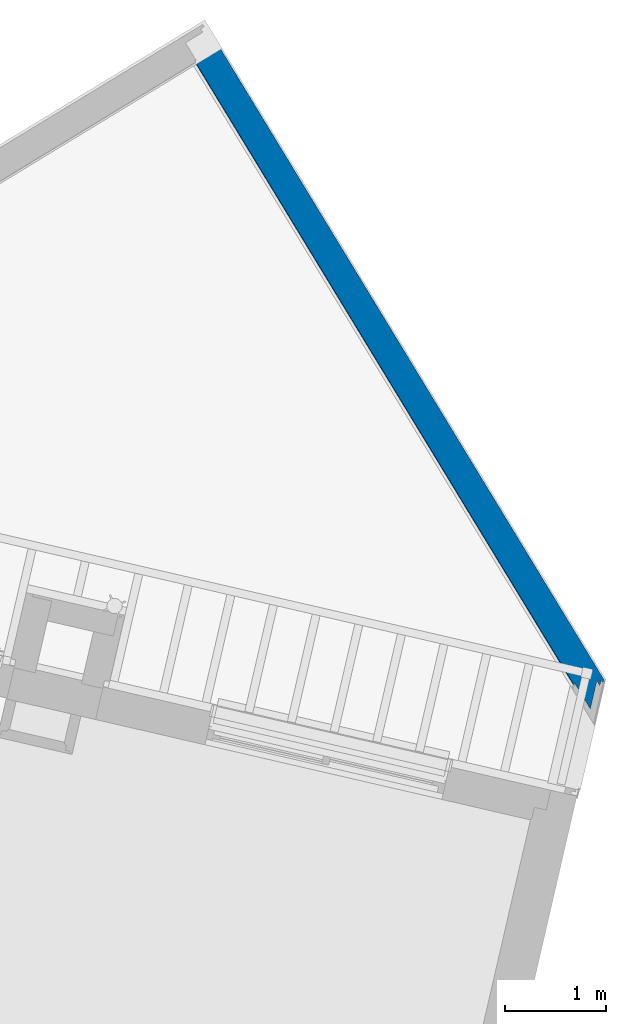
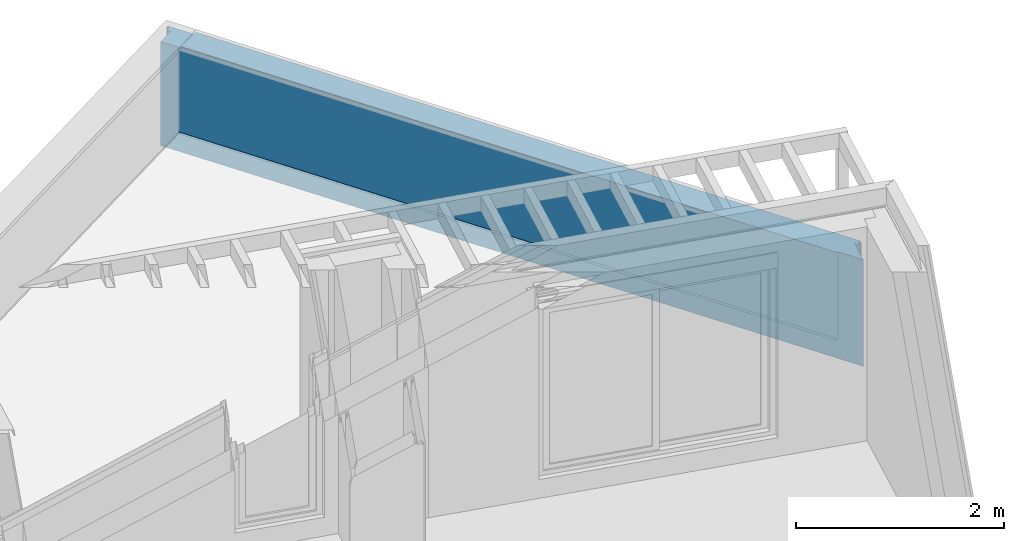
# One storey, part 37 of 62: 1 wall.
"""IFC2X3 building model written with IfcOpenShell, lengths in metres."""

from ifc_helpers import new_model, entity, si_unit, converted_unit, derived_unit, money_unit, direction, frame, origin_with_axes, place, context, subcontext, project, spatial, faceted_brep, material, material_list, type_object, element, save


model = new_model("IFC2X3")

# Units and contexts
model_context = context("Model", 3, precision=1e-05, world=origin_with_axes(), true_north=direction((0.0, 1.0)))
body_context = subcontext(model_context, "Body", "Model", "MODEL_VIEW")
ifc_project = project(units=[si_unit("LENGTHUNIT", "METRE"), si_unit("AREAUNIT", "SQUARE_METRE"), si_unit("VOLUMEUNIT", "CUBIC_METRE"), converted_unit("PLANEANGLEUNIT", "DEGREE", entity("IfcPlaneAngleMeasure", 0.0174532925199), si_unit("PLANEANGLEUNIT", "RADIAN"), dimensions=[0, 0, 0, 0, 0, 0, 0]), si_unit("SOLIDANGLEUNIT", "STERADIAN"), money_unit("EUR"), converted_unit("TIMEUNIT", "Year", entity("IfcTimeMeasure", 31556926.0), si_unit("TIMEUNIT", "SECOND"), dimensions=[0, 0, 1, 0, 0, 0, 0]), si_unit("MASSUNIT", "GRAM", prefix="KILO"), si_unit("THERMODYNAMICTEMPERATUREUNIT", "DEGREE_CELSIUS"), si_unit("LUMINOUSINTENSITYUNIT", "LUMEN"), si_unit("ENERGYUNIT", "JOULE", prefix="MEGA"), derived_unit("THERMALCONDUCTANCEUNIT", [(si_unit("POWERUNIT", "WATT"), 1), (si_unit("LENGTHUNIT", "METRE"), -1), (si_unit("THERMODYNAMICTEMPERATUREUNIT", "KELVIN"), -1)]), derived_unit("SPECIFICHEATCAPACITYUNIT", [(si_unit("ENERGYUNIT", "JOULE"), 1), (si_unit("MASSUNIT", "GRAM", prefix="KILO"), -1), (si_unit("THERMODYNAMICTEMPERATUREUNIT", "KELVIN"), -1)]), derived_unit("MASSDENSITYUNIT", [(si_unit("MASSUNIT", "GRAM", prefix="KILO"), 1), (si_unit("VOLUMEUNIT", "CUBIC_METRE"), -1)])], contexts=[model_context])

# Site, building, storey
site_placement = place(None, origin_with_axes())
site = spatial("IfcSite", under=ifc_project, at=site_placement, Name="Site", CompositionType="ELEMENT")
building_placement = place(site_placement, origin_with_axes())
building = spatial("IfcBuilding", under=site, at=building_placement, Name="Bâtiment", CompositionType="ELEMENT")
storey_placement = place(building_placement, frame((0.0, 0.0, 8.16), z_axis=(0.0, 0.0, 1.0), x_axis=(1.0, 0.0, 0.0)))
storey = spatial("IfcBuildingStorey", under=building, at=storey_placement, Name="R+3", CompositionType="ELEMENT", Elevation=8.16)

# Wall
ifc_material_1 = material(Name="Finition ext - Bardage bois")
ifc_material_2 = material(Name="Bois - Lattage")
ifc_material_3 = material(Name="Béton")
ifc_material_4 = material(Name="Etanchéité - Bitume")
ifc_material_5 = material(Name="Finition ext - Crépis")
ifc_material_6 = material(Name="Métal - Aluminium")
ifc_material_list = material_list([ifc_material_1, ifc_material_2, ifc_material_3, ifc_material_4, ifc_material_5, ifc_material_6])
wall_type = type_object("IfcWallType", Name="Acrotère plancher 21 isolée TERR ACCE BARDAGE BOIS 285 x 1250", PredefinedType="USERDEFINED")
wall_placement = place(storey_placement, frame((-2.42846946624, 20.387986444, 0.0), z_axis=(0.0, 0.0, 1.0), x_axis=(0.519386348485, -0.854539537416, 0.0)))
element("IfcWall", 1, at=wall_placement, inside=storey, type_object=wall_type, material=ifc_material_list, Name="Muret béton 20cm", ObjectType="PARAPET", context=body_context, shape_type="Brep", body=[
    faceted_brep([(0.302307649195, 0.0, 1.22374689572), (0.302307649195, 0.0, 1.22802453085), (0.302307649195, -6.48961773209e-09, 1.249897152), (7.58217662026, -3.32137872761e-10, 1.24989715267), (7.58217661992, 0.0, 0.0), (8.28520896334e-09, 0.0, 0.0), (8.28520896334e-09, -6.6365224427e-09, 1.22), (0.302307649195, 0.0, 1.22), (0.3023076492, -0.025, 1.22374689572), (0.3023076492, -0.025, 1.22802453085), (0.3023076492, -0.025, 1.249897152), (7.60780697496, -0.025, 1.24989715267), (7.60780697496, -0.025, 0.0), (8.29101409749e-09, -0.025, 0.0), (8.29101409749e-09, -0.025, 1.22), (0.3023076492, -0.025, 1.22)], [[[0, 1, 2, 3, 4, 5, 6, 7]], [[8, 9, 1, 0]], [[9, 10, 2, 1]], [[3, 2, 10, 11]], [[11, 12, 4, 3]], [[4, 12, 13, 5]], [[13, 14, 6, 5]], [[14, 15, 7, 6]], [[15, 8, 0, 7]], [[11, 10, 9, 8, 15, 14, 13, 12]]]),
    faceted_brep([(0.0250000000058, -0.0249999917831, 0.228976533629), (0.0250000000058, -0.0249999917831, 0.267041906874), (0.0250000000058, -0.0249999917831, 1.22), (0.3023076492, -0.0249999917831, 1.22), (0.3023076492, -0.0249999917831, 1.22374689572), (0.3023076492, -0.0249999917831, 1.22802453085), (0.3023076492, -0.0249999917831, 1.249897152), (7.57200313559, -0.0249999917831, 1.24989715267), (7.57200313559, -0.0249999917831, 0.267041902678), (7.57200313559, -0.0249999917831, 0.228976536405), (7.57200313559, -0.0249999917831, 0.220000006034), (7.57200313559, -0.0249999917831, 0.192882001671), (7.57200313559, -0.0249999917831, 0.100000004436), (7.57200313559, -0.0249999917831, 0.0), (0.0250000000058, -0.0249999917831, 0.0), (0.0250000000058, -0.0249999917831, 0.1), (0.0250000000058, -0.0249999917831, 0.192882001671), (0.0250000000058, -0.0249999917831, 0.22), (0.0250000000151, -0.0649999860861, 0.228976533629), (0.0250000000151, -0.0649999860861, 0.267041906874), (0.0250000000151, -0.0649999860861, 1.22), (0.302307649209, -0.0649999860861, 1.22), (0.302307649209, -0.0649999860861, 1.22374689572), (0.302307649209, -0.0649999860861, 1.22802453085), (0.302307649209, -0.0649999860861, 1.249897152), (7.61301169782, -0.0649999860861, 1.24989715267), (7.61301169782, -0.0649999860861, 0.267041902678), (7.61301169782, -0.0649999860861, 0.228976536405), (7.61301169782, -0.0649999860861, 0.220000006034), (7.61301169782, -0.0649999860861, 0.192882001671), (7.61301169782, -0.0649999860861, 0.100000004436), (7.61301169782, -0.0649999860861, 0.0), (0.0250000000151, -0.0649999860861, 0.0), (0.0250000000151, -0.0649999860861, 0.1), (0.0250000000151, -0.0649999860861, 0.192882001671), (0.0250000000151, -0.0649999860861, 0.22)], [[[0, 1, 2, 3, 4, 5, 6, 7, 8, 9, 10, 11, 12, 13, 14, 15, 16, 17]], [[18, 19, 1, 0]], [[19, 20, 2, 1]], [[3, 2, 20, 21]], [[21, 22, 4, 3]], [[22, 23, 5, 4]], [[23, 24, 6, 5]], [[7, 6, 24, 25]], [[26, 8, 7, 25]], [[9, 8, 26, 27]], [[10, 9, 27, 28]], [[11, 10, 28, 29]], [[12, 11, 29, 30]], [[13, 12, 30, 31]], [[31, 32, 14, 13]], [[32, 33, 15, 14]], [[33, 34, 16, 15]], [[34, 35, 17, 16]], [[35, 18, 0, 17]], [[21, 20, 19, 18, 35, 34, 33, 32, 31, 30, 29, 28, 27, 26, 25, 24, 23, 22]]]),
    faceted_brep([(0.0650000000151, -0.065, 0.228976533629), (0.0650000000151, -0.065, 0.267041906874), (0.0650000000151, -0.065, 1.22), (0.302307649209, -0.065, 1.22), (0.302307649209, -0.065, 1.22374689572), (0.302307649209, -0.065, 1.22802453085), (0.302307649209, -0.065, 1.249897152), (7.55572558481, -0.065, 1.24989715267), (7.55572558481, -0.065, 0.267041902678), (7.55572558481, -0.065, 0.228976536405), (7.55572558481, -0.065, 0.220000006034), (7.55572558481, -0.065, 0.192882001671), (7.55572558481, -0.065, 0.100000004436), (7.55572558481, -0.065, 0.0), (0.0650000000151, -0.065, 0.0), (0.0650000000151, -0.065, 0.1), (0.0650000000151, -0.065, 0.192882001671), (0.0650000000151, -0.065, 0.22), (0.0650000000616, -0.265000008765, 0.228976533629), (0.0650000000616, -0.265000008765, 0.267041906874), (0.0650000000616, -0.265000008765, 1.22), (0.302307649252, -0.265000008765, 1.22), (0.302307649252, -0.265000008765, 1.22374689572), (0.302307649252, -0.265000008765, 1.22802453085), (0.302307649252, -0.265000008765, 1.249897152), (7.76076843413, -0.265000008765, 1.24989715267), (7.76076843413, -0.265000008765, 0.267041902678), (7.76076843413, -0.265000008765, 0.228976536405), (7.76076843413, -0.265000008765, 0.220000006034), (7.76076843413, -0.265000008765, 0.192882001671), (7.76076843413, -0.265000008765, 0.100000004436), (7.76076843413, -0.265000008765, 0.0), (0.0650000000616, -0.265000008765, 0.0), (0.0650000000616, -0.265000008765, 0.1), (0.0650000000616, -0.265000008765, 0.192882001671), (0.0650000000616, -0.265000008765, 0.22)], [[[0, 1, 2, 3, 4, 5, 6, 7, 8, 9, 10, 11, 12, 13, 14, 15, 16, 17]], [[18, 19, 1, 0]], [[19, 20, 2, 1]], [[3, 2, 20, 21]], [[21, 22, 4, 3]], [[22, 23, 5, 4]], [[23, 24, 6, 5]], [[7, 6, 24, 25]], [[26, 8, 7, 25]], [[9, 8, 26, 27]], [[10, 9, 27, 28]], [[11, 10, 28, 29]], [[12, 11, 29, 30]], [[13, 12, 30, 31]], [[31, 32, 14, 13]], [[32, 33, 15, 14]], [[33, 34, 16, 15]], [[34, 35, 17, 16]], [[35, 18, 0, 17]], [[21, 20, 19, 18, 27, 26, 25, 24, 23, 22]], [[27, 18, 35, 28]], [[28, 35, 34, 33, 30, 29]], [[30, 33, 32, 31]]]),
    faceted_brep([(7.48458979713, -0.274999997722, 0.11), (7.4743376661, -0.265000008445, 0.11), (7.47433766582, -0.265000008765, 0.220000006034), (7.48458979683, -0.274999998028, 0.220000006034), (0.265000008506, -0.265000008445, 0.11), (0.265000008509, -0.274999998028, 0.11), (0.265000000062, -0.265000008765, 0.22), (0.265000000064, -0.274999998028, 0.22)], [[[0, 1, 2, 3]], [[4, 1, 0, 5]], [[1, 4, 6, 2]], [[2, 6, 7, 3]], [[5, 0, 3, 7]], [[4, 5, 7, 6]]]),
    faceted_brep([(0.265000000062, -0.265000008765, 0.267041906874), (0.265000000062, -0.265000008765, 1.22), (0.302307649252, -0.265000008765, 1.22), (0.302307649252, -0.265000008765, 1.22374689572), (0.302307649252, -0.265000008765, 1.22802453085), (0.302307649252, -0.265000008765, 1.249897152), (7.47433766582, -0.265000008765, 1.24989715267), (7.47433766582, -0.265000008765, 0.267041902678), (0.265000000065, -0.280000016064, 1.22), (0.265000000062, -0.266045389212, 0.267041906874), (0.265000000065, -0.280000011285, 0.267041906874), (0.302307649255, -0.280000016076, 1.22), (0.302307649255, -0.280000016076, 1.22374689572), (0.302307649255, -0.280000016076, 1.22802453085), (0.302307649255, -0.280000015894, 1.249897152), (7.48971588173, -0.280000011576, 1.24989715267), (7.48971588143, -0.280000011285, 0.267041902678), (7.4754094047, -0.266045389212, 0.267041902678)], [[[0, 1, 2, 3, 4, 5, 6, 7]], [[8, 1, 0, 9, 10]], [[1, 8, 11, 2]], [[12, 3, 2, 11]], [[13, 4, 3, 12]], [[14, 5, 4, 13]], [[5, 14, 15, 6]], [[7, 6, 15, 16, 17]], [[9, 0, 7, 17]], [[10, 9, 17, 16]], [[8, 10, 16, 15, 14, 13, 12, 11]]]),
    faceted_brep([(0.265000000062, -0.264999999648, 0.228976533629), (0.265000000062, -0.265, 0.267041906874), (7.47433765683, -0.265, 0.267041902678), (7.47433765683, -0.265, 0.228976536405), (0.265000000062, -0.266045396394, 0.267041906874), (0.265000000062, -0.268640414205, 0.228976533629), (0.265000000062, -0.266045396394, 0.230023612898), (7.47540941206, -0.266045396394, 0.267041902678), (7.47540941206, -0.266045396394, 0.230023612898), (7.47806985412, -0.268640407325, 0.228976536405), (0.284250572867, -0.284250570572, 0.221101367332), (7.46650386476, -0.284250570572, 0.221101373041), (0.284250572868, -0.285484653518, 0.221101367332), (0.281614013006, -0.285484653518, 0.222179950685), (7.4715450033, -0.285484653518, 0.222179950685), (7.46776906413, -0.285484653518, 0.221101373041), (0.284250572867, -0.284250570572, 0.22), (7.46650386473, -0.284250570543, 0.220000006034), (7.46650386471, -0.284250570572, 0.192882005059), (0.284250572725, -0.284250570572, 0.192882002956), (0.284250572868, -0.285484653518, 0.22), (0.284250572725, -0.285484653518, 0.192882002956), (7.46776906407, -0.285484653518, 0.192882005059), (7.4677690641, -0.285484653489, 0.220000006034)], [[[0, 1, 2, 3]], [[4, 1, 0, 5, 6]], [[1, 4, 7, 2]], [[3, 2, 7, 8, 9]], [[10, 0, 3, 11]], [[5, 0, 10, 12, 13]], [[6, 5, 13, 14, 9, 8]], [[4, 6, 8, 7]], [[3, 9, 14, 15, 11]], [[16, 10, 11, 17, 18, 19]], [[10, 16, 20, 12]], [[12, 20, 21, 22, 23, 15, 14, 13]], [[17, 11, 15, 23]], [[17, 23, 22, 18]], [[21, 19, 18, 22]], [[20, 16, 19, 21]]]),
])

save(model, "model.ifc")
